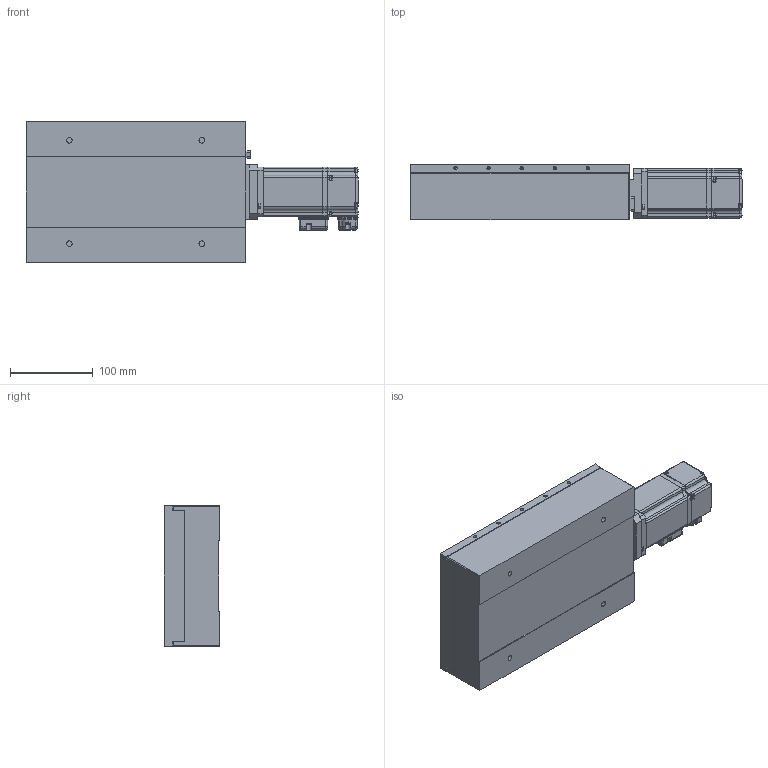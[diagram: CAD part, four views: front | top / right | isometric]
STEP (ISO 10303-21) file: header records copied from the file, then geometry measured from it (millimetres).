
FILE_DESCRIPTION (( 'STEP AP203' ), '1' );
FILE_NAME ('NPS-AC-40-10x.STEP', '2019-09-11T06:40:54', ( '' ), ( '' ), 'SwSTEP 2.0', 'SolidWorks 2015', '' );
FILE_SCHEMA (( 'CONFIG_CONTROL_DESIGN' ));
Length unit declared in the file: millimetre
Products named in the file (3): NPS-AC-40-10x; NPS-AC-40-10x_移動部; NPS-AC-40-10x_固定部
Assembly tree (2 placements, depth 2):
  NPS-AC-40-10x
    NPS-AC-40-10x_移動部
    NPS-AC-40-10x_固定部
Bounding box: 401.5 x 67 x 170 mm (x, y, z)
Volume: 976992 mm3; surface area: 324263.8 mm2
Topology: 1 solids, 36 shells, 1049 faces, 2980 edges, 1969 vertices
Faces by surface type: cylinder 410, plane 389, torus 96, cone 61, bspline 49, sphere 44
Entity records: 42501 total; most frequent: CARTESIAN_POINT 15890, DIRECTION 5484, ORIENTED_EDGE 5156, EDGE_CURVE 2909, AXIS2_PLACEMENT_3D 2014, VERTEX_POINT 1949, LINE 1456, VECTOR 1456
